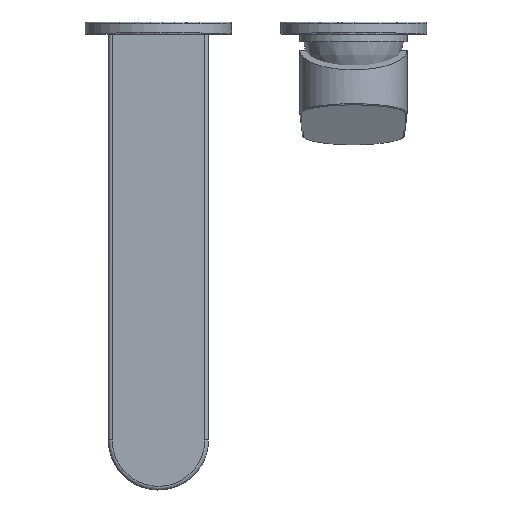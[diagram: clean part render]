
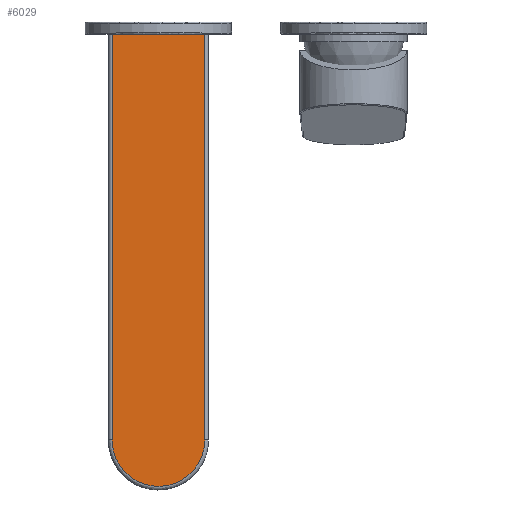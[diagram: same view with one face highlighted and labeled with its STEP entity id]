
A CAD part, top view. The second image highlights one B-rep face of the part: STEP entity #6029.
In plain terms, the highlighted planar face has unit normal (0, 0, 1).
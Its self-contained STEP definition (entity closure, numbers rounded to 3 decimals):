
#5301=CARTESIAN_POINT('',(-61.,-224.55,10.));
#5302=VERTEX_POINT('',#5301);
#5303=CARTESIAN_POINT('',(-99.,-224.55,10.));
#5304=VERTEX_POINT('',#5303);
#5305=CARTESIAN_POINT('',(-61.,-224.55,10.));
#5306=CARTESIAN_POINT('',(-61.,-225.792,10.));
#5307=CARTESIAN_POINT('',(-61.245,-228.282,10.));
#5308=CARTESIAN_POINT('',(-62.333,-231.868,10.));
#5309=CARTESIAN_POINT('',(-64.1,-235.174,10.));
#5310=CARTESIAN_POINT('',(-66.478,-238.072,10.));
#5311=CARTESIAN_POINT('',(-69.376,-240.45,10.));
#5312=CARTESIAN_POINT('',(-72.682,-242.217,10.));
#5313=CARTESIAN_POINT('',(-76.269,-243.305,10.));
#5314=CARTESIAN_POINT('',(-80.,-243.672,10.));
#5315=CARTESIAN_POINT('',(-83.731,-243.305,10.));
#5316=CARTESIAN_POINT('',(-87.318,-242.217,10.));
#5317=CARTESIAN_POINT('',(-90.624,-240.45,10.));
#5318=CARTESIAN_POINT('',(-93.522,-238.072,10.));
#5319=CARTESIAN_POINT('',(-95.9,-235.174,10.));
#5320=CARTESIAN_POINT('',(-97.667,-231.868,10.));
#5321=CARTESIAN_POINT('',(-98.755,-228.282,10.));
#5322=CARTESIAN_POINT('',(-99.,-225.792,10.));
#5323=CARTESIAN_POINT('',(-99.,-224.55,10.));
#5324=B_SPLINE_CURVE_WITH_KNOTS('',3,(#5305,#5306,#5307,#5308,#5309,#5310,#5311,#5312,#5313,#5314,#5315,#5316,#5317,#5318,#5319,#5320,#5321,#5322,#5323),.UNSPECIFIED.,.F.,.U.,(4,1,1,1,1,1,1,1,1,1,1,1,1,1,1,1,4),(0.0,3.902,7.804,11.706,15.608,19.509,23.411,27.313,31.215,35.117,39.019,42.921,46.823,50.725,54.626,58.528,62.43),.UNSPECIFIED.);
#5325=EDGE_CURVE('',#5302,#5304,#5324,.T.);
#5999=CARTESIAN_POINT('',(-60.,-13.25,10.));
#6000=DIRECTION('',(0.0,0.0,1.0));
#6001=DIRECTION('',(-1.0,0.0,0.0));
#6002=AXIS2_PLACEMENT_3D('',#5999,#6000,#6001);
#6003=PLANE('',#6002);
#6004=CARTESIAN_POINT('',(-61.,-58.25,10.));
#6005=VERTEX_POINT('',#6004);
#6006=CARTESIAN_POINT('',(-61.,-224.55,10.));
#6007=DIRECTION('',(0.0,1.0,0.0));
#6008=VECTOR('',#6007,166.3);
#6009=LINE('',#6006,#6008);
#6010=EDGE_CURVE('',#5302,#6005,#6009,.T.);
#6011=ORIENTED_EDGE('',*,*,#6010,.T.);
#6012=CARTESIAN_POINT('',(-99.,-58.25,10.));
#6013=VERTEX_POINT('',#6012);
#6014=CARTESIAN_POINT('',(-61.,-58.25,10.));
#6015=DIRECTION('',(-1.0,0.0,0.0));
#6016=VECTOR('',#6015,38.);
#6017=LINE('',#6014,#6016);
#6018=EDGE_CURVE('',#6005,#6013,#6017,.T.);
#6019=ORIENTED_EDGE('',*,*,#6018,.T.);
#6020=CARTESIAN_POINT('',(-99.,-58.25,10.));
#6021=DIRECTION('',(0.0,-1.0,0.0));
#6022=VECTOR('',#6021,166.3);
#6023=LINE('',#6020,#6022);
#6024=EDGE_CURVE('',#6013,#5304,#6023,.T.);
#6025=ORIENTED_EDGE('',*,*,#6024,.T.);
#6026=ORIENTED_EDGE('',*,*,#5325,.F.);
#6027=EDGE_LOOP('',(#6011,#6019,#6025,#6026));
#6028=FACE_OUTER_BOUND('',#6027,.T.);
#6029=ADVANCED_FACE('',(#6028),#6003,.T.);
